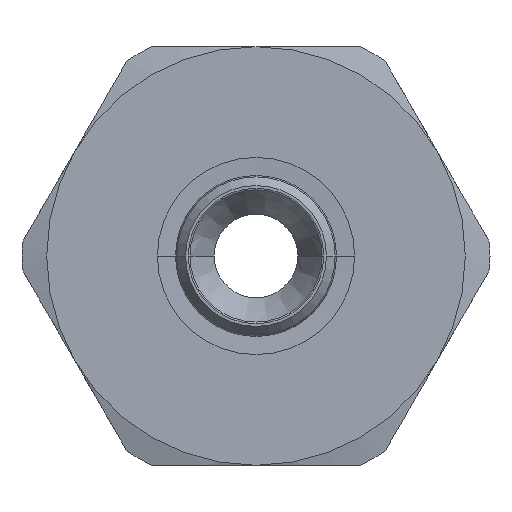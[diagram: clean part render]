
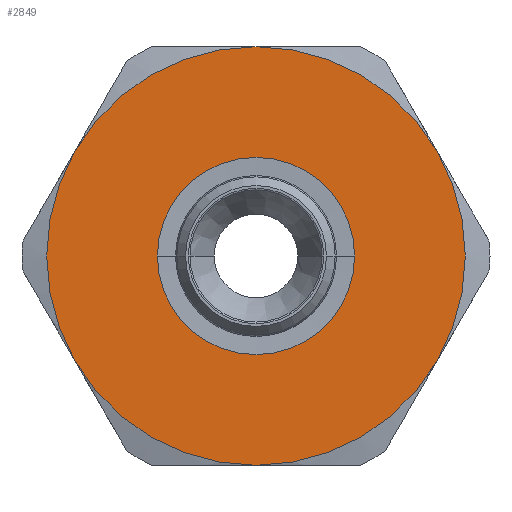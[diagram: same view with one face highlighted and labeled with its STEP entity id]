
A CAD part, left-side view. The second image highlights one B-rep face of the part: STEP entity #2849.
In plain terms, the highlighted planar face has unit normal (-1, 0, 0) as drawn and (0, 0, 1) by its records, which use the part's own axes.
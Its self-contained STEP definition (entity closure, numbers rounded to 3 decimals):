
#1176=CARTESIAN_POINT('',(0.,-12.95,7.));
#1177=VERTEX_POINT('',#1176);
#1193=CARTESIAN_POINT('',(0.,12.95,7.0));
#1194=VERTEX_POINT('',#1193);
#1201=CARTESIAN_POINT('',(0.,0.,7.0));
#1202=DIRECTION('',(0.0,0.0,-1.0));
#1203=DIRECTION('',(0.0,-1.0,0.0));
#1204=AXIS2_PLACEMENT_3D('',#1201,#1202,#1203);
#1205=CIRCLE('',#1204,12.95);
#1206=EDGE_CURVE('',#1177,#1194,#1205,.T.);
#1663=CARTESIAN_POINT('',(0.,0.,7.0));
#1664=DIRECTION('',(0.0,0.0,-1.0));
#1665=DIRECTION('',(0.0,-1.0,0.0));
#1666=AXIS2_PLACEMENT_3D('',#1663,#1664,#1665);
#1667=CIRCLE('',#1666,12.95);
#1668=EDGE_CURVE('',#1194,#1177,#1667,.T.);
#2222=CARTESIAN_POINT('',(13.75,-23.816,7.));
#2223=VERTEX_POINT('',#2222);
#2237=CARTESIAN_POINT('',(-13.75,-23.816,7.));
#2238=VERTEX_POINT('',#2237);
#2239=CARTESIAN_POINT('',(0.,0.0,7.0));
#2240=DIRECTION('',(0.0,0.0,1.0));
#2241=DIRECTION('',(1.0,0.0,0.0));
#2242=AXIS2_PLACEMENT_3D('',#2239,#2240,#2241);
#2243=CIRCLE('',#2242,27.5);
#2244=EDGE_CURVE('',#2238,#2223,#2243,.T.);
#2322=CARTESIAN_POINT('',(-27.5,0.,7.));
#2323=VERTEX_POINT('',#2322);
#2324=CARTESIAN_POINT('',(0.,0.0,7.0));
#2325=DIRECTION('',(0.0,0.0,1.0));
#2326=DIRECTION('',(1.0,0.0,0.0));
#2327=AXIS2_PLACEMENT_3D('',#2324,#2325,#2326);
#2328=CIRCLE('',#2327,27.5);
#2329=EDGE_CURVE('',#2323,#2238,#2328,.T.);
#2406=CARTESIAN_POINT('',(-13.75,23.816,7.));
#2407=VERTEX_POINT('',#2406);
#2408=CARTESIAN_POINT('',(0.,0.0,7.0));
#2409=DIRECTION('',(0.0,0.0,1.0));
#2410=DIRECTION('',(1.0,0.0,0.0));
#2411=AXIS2_PLACEMENT_3D('',#2408,#2409,#2410);
#2412=CIRCLE('',#2411,27.5);
#2413=EDGE_CURVE('',#2407,#2323,#2412,.T.);
#2490=CARTESIAN_POINT('',(13.75,23.816,7.));
#2491=VERTEX_POINT('',#2490);
#2492=CARTESIAN_POINT('',(0.,0.0,7.0));
#2493=DIRECTION('',(0.0,0.0,1.0));
#2494=DIRECTION('',(1.0,0.0,0.0));
#2495=AXIS2_PLACEMENT_3D('',#2492,#2493,#2494);
#2496=CIRCLE('',#2495,27.5);
#2497=EDGE_CURVE('',#2491,#2407,#2496,.T.);
#2575=CARTESIAN_POINT('',(27.5,0.0,7.));
#2576=VERTEX_POINT('',#2575);
#2577=CARTESIAN_POINT('',(0.,0.0,7.0));
#2578=DIRECTION('',(0.0,0.0,1.0));
#2579=DIRECTION('',(1.0,0.0,0.0));
#2580=AXIS2_PLACEMENT_3D('',#2577,#2578,#2579);
#2581=CIRCLE('',#2580,27.5);
#2582=EDGE_CURVE('',#2576,#2491,#2581,.T.);
#2659=CARTESIAN_POINT('',(0.,0.0,7.0));
#2660=DIRECTION('',(0.0,0.0,1.0));
#2661=DIRECTION('',(1.0,0.0,0.0));
#2662=AXIS2_PLACEMENT_3D('',#2659,#2660,#2661);
#2663=CIRCLE('',#2662,27.5);
#2664=EDGE_CURVE('',#2223,#2576,#2663,.T.);
#2832=CARTESIAN_POINT('',(0.,0.,7.0));
#2833=DIRECTION('',(0.0,0.0,1.0));
#2834=DIRECTION('',(1.0,0.0,0.0));
#2835=AXIS2_PLACEMENT_3D('',#2832,#2833,#2834);
#2836=PLANE('',#2835);
#2837=ORIENTED_EDGE('',*,*,#2664,.T.);
#2838=ORIENTED_EDGE('',*,*,#2582,.T.);
#2839=ORIENTED_EDGE('',*,*,#2497,.T.);
#2840=ORIENTED_EDGE('',*,*,#2413,.T.);
#2841=ORIENTED_EDGE('',*,*,#2329,.T.);
#2842=ORIENTED_EDGE('',*,*,#2244,.T.);
#2843=EDGE_LOOP('',(#2837,#2838,#2839,#2840,#2841,#2842));
#2844=FACE_OUTER_BOUND('',#2843,.T.);
#2845=ORIENTED_EDGE('',*,*,#1206,.T.);
#2846=ORIENTED_EDGE('',*,*,#1668,.T.);
#2847=EDGE_LOOP('',(#2845,#2846));
#2848=FACE_BOUND('',#2847,.T.);
#2849=ADVANCED_FACE('',(#2844,#2848),#2836,.T.);
